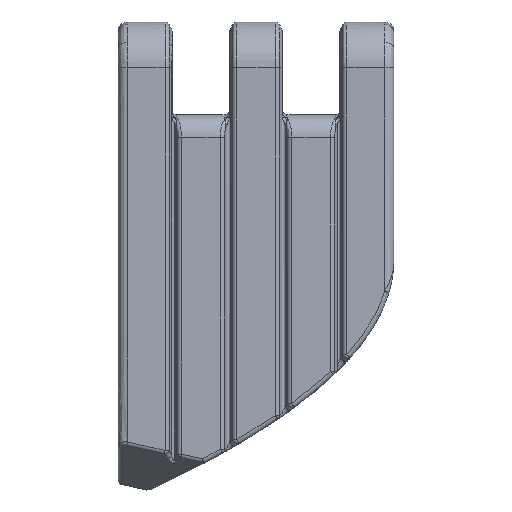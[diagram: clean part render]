
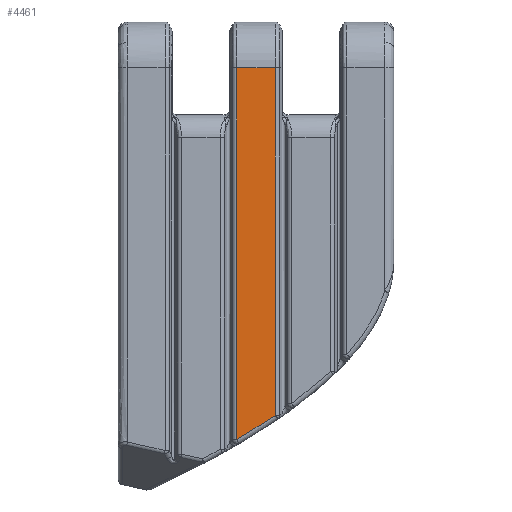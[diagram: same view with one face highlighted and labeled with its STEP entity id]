
A CAD part, front view. The second image highlights one B-rep face of the part: STEP entity #4461.
In plain terms, the highlighted planar face has unit normal (0, -1, 0).
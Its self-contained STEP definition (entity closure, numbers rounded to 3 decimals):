
#87 = VECTOR ( 'NONE', #2528, 1000. ) ;
#94 = ORIENTED_EDGE ( 'NONE', *, *, #10031, .T. ) ;
#538 = ORIENTED_EDGE ( 'NONE', *, *, #13390, .T. ) ;
#611 = CARTESIAN_POINT ( 'NONE',  ( 17.107, 0., -37.845 ) ) ;
#629 = CARTESIAN_POINT ( 'NONE',  ( 17.107, 0., 0. ) ) ;
#1698 = CARTESIAN_POINT ( 'NONE',  ( 12.893, 0., -40.508 ) ) ;
#2015 = FACE_OUTER_BOUND ( 'NONE', #13720, .T. ) ;
#2490 = DIRECTION ( 'NONE',  ( 0., 0., 1. ) ) ;
#2528 = DIRECTION ( 'NONE',  ( -1., 0., 0. ) ) ;
#3014 = VERTEX_POINT ( 'NONE', #8102 ) ;
#3043 = EDGE_CURVE ( 'NONE', #3014, #11379, #3751, .T. ) ;
#3474 = ORIENTED_EDGE ( 'NONE', *, *, #8568, .T. ) ;
#3751 = LINE ( 'NONE', #4692, #87 ) ;
#3890 = B_SPLINE_CURVE_WITH_KNOTS ( 'NONE', 3,
 ( #1698, #5301, #11952, #8505 ),
 .UNSPECIFIED., .F., .F.,
 ( 4, 4 ),
 ( 0., 0.005 ),
 .UNSPECIFIED. ) ;
#4217 = LINE ( 'NONE', #629, #10579 ) ;
#4461 = ADVANCED_FACE ( 'NONE', ( #2015 ), #4802, .F. ) ;
#4692 = CARTESIAN_POINT ( 'NONE',  ( 12.583, 0., 0. ) ) ;
#4802 = PLANE ( 'NONE',  #5269 ) ;
#4819 = CARTESIAN_POINT ( 'NONE',  ( 12.893, 0., -40.508 ) ) ;
#5269 = AXIS2_PLACEMENT_3D ( 'NONE', #7110, #12641, #2490 ) ;
#5271 = ORIENTED_EDGE ( 'NONE', *, *, #3043, .T. ) ;
#5301 = CARTESIAN_POINT ( 'NONE',  ( 14.326, 0., -39.665 ) ) ;
#5511 = LINE ( 'NONE', #10284, #6917 ) ;
#5874 = DIRECTION ( 'NONE',  ( 0., 0., -1. ) ) ;
#6917 = VECTOR ( 'NONE', #5874, 1000. ) ;
#7110 = CARTESIAN_POINT ( 'NONE',  ( 30., 0., 0. ) ) ;
#7892 = VERTEX_POINT ( 'NONE', #4819 ) ;
#8004 = CARTESIAN_POINT ( 'NONE',  ( 12.893, 0., 0. ) ) ;
#8102 = CARTESIAN_POINT ( 'NONE',  ( 17.107, 0., 0. ) ) ;
#8505 = CARTESIAN_POINT ( 'NONE',  ( 17.107, 0., -37.845 ) ) ;
#8568 = EDGE_CURVE ( 'NONE', #12447, #3014, #4217, .T. ) ;
#10031 = EDGE_CURVE ( 'NONE', #7892, #12447, #3890, .T. ) ;
#10284 = CARTESIAN_POINT ( 'NONE',  ( 12.893, 0., -56.899 ) ) ;
#10579 = VECTOR ( 'NONE', #10631, 1000. ) ;
#10631 = DIRECTION ( 'NONE',  ( 0., 0., 1. ) ) ;
#11379 = VERTEX_POINT ( 'NONE', #8004 ) ;
#11952 = CARTESIAN_POINT ( 'NONE',  ( 15.734, 0., -38.782 ) ) ;
#12447 = VERTEX_POINT ( 'NONE', #611 ) ;
#12641 = DIRECTION ( 'NONE',  ( 0., 1., 0. ) ) ;
#13390 = EDGE_CURVE ( 'NONE', #11379, #7892, #5511, .T. ) ;
#13720 = EDGE_LOOP ( 'NONE', ( #538, #94, #3474, #5271 ) ) ;
